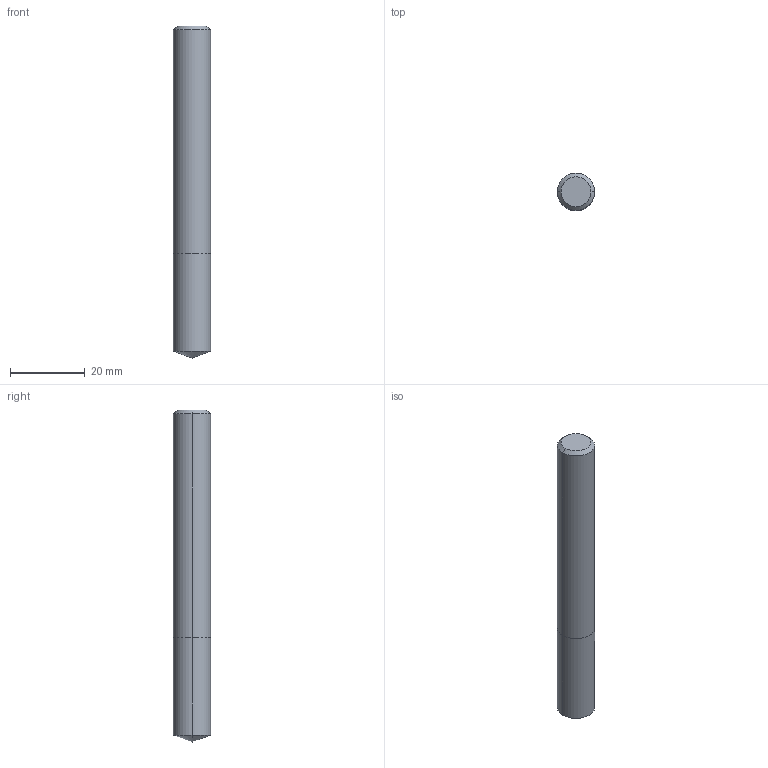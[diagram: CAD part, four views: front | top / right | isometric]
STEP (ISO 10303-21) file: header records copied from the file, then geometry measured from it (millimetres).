
FILE_DESCRIPTION (( 'STEP AP214' ), '1' );
FILE_NAME ('303.100.00_3D-model.step', '2022-02-19T16:08:20', ( '' ), ( '' ), 'SwSTEP 2.0', 'SolidWorks 2020', '' );
FILE_SCHEMA (( 'AUTOMOTIVE_DESIGN' ));
Length unit declared in the file: millimetre
Products named in the file (3): 303.100.00_3D-model; CUT-3D^Baugr71; NOCUT-3D^Baugr71
Assembly tree (2 placements, depth 2):
  303.100.00_3D-model
    CUT-3D^Baugr71
    NOCUT-3D^Baugr71
Bounding box: 10 x 10 x 89 mm (x, y, z)
Volume: 6880.1 mm3; surface area: 3038.4 mm2
Topology: 2 solids, 2 shells, 11 faces, 20 edges, 11 vertices
Faces by surface type: cone 4, cylinder 4, plane 3
Entity records: 380 total; most frequent: DIRECTION 66, CARTESIAN_POINT 48, ORIENTED_EDGE 36, AXIS2_PLACEMENT_3D 29, EDGE_CURVE 18, ADVANCED_FACE 11, VERTEX_POINT 11, EDGE_LOOP 11
